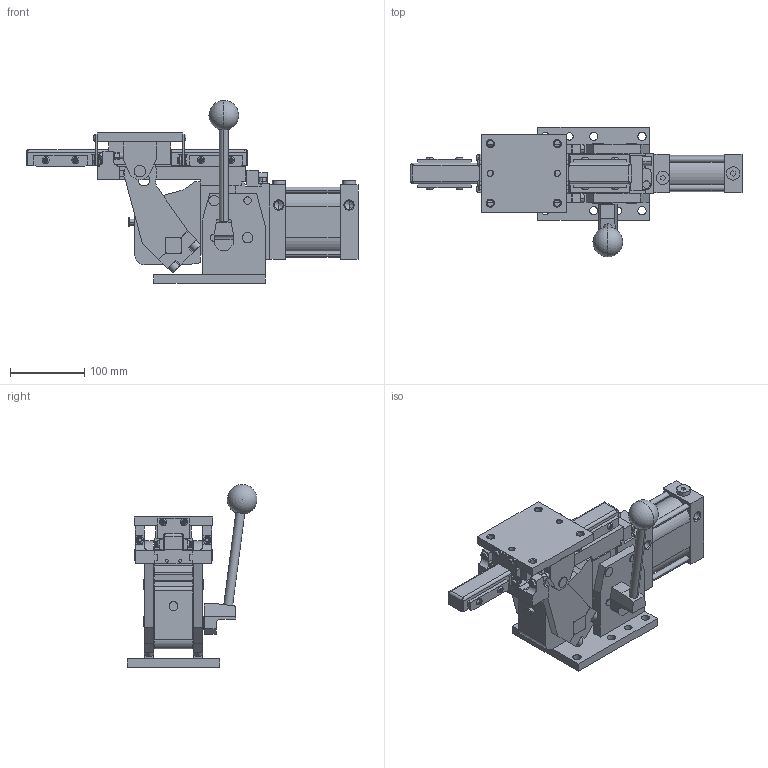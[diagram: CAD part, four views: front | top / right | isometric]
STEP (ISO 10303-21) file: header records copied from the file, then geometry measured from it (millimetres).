
FILE_DESCRIPTION (( 'STEP AP214' ), '1' );
FILE_NAME ('slcpm63_90_xx_la_f_s1.STEP', '2019-09-19T12:59:29', ( '' ), ( '' ), 'SwSTEP 2.0', 'SolidWorks 2019', '' );
FILE_SCHEMA (( 'AUTOMOTIVE_DESIGN' ));
Length unit declared in the file: millimetre
Products named in the file (11): riparo_binario_ant_slcp63; blocchetto_VEP_0; staffa_reazione_destra_slcp63_dx; slcpm63_90_xx_x_x; tappo cil G1_4 din908_rondella rame; piastra_superiore_slcp63; leva_slcpm63; leva_slcp63; riparo_binario_post_slcp63; staffa_reazione_sinistra_slcp63_sx; slcpm63_90_xx_la_f_s1
Assembly tree (11 placements, depth 2):
  slcpm63_90_xx_la_f_s1
    slcpm63_90_xx_x_x
    piastra_superiore_slcp63
    leva_slcp63
    blocchetto_VEP_0
    staffa_reazione_destra_slcp63_dx
    staffa_reazione_sinistra_slcp63_sx
    tappo cil G1_4 din908_rondella rame  x2
    leva_slcpm63
    riparo_binario_ant_slcp63
    riparo_binario_post_slcp63
Bounding box: 446.5 x 174.8 x 246.1 mm (x, y, z)
Volume: 2814845.6 mm3; surface area: 424608 mm2
Topology: 50 solids, 64 shells, 1764 faces, 4314 edges, 2669 vertices
Faces by surface type: plane 796, cylinder 476, cone 440, torus 50, sphere 2
Entity records: 64010 total; most frequent: CARTESIAN_POINT 10397, DIRECTION 8913, ORIENTED_EDGE 8374, EDGE_CURVE 4187, AXIS2_PLACEMENT_3D 3274, VERTEX_POINT 2646, LINE 2365, VECTOR 2365
